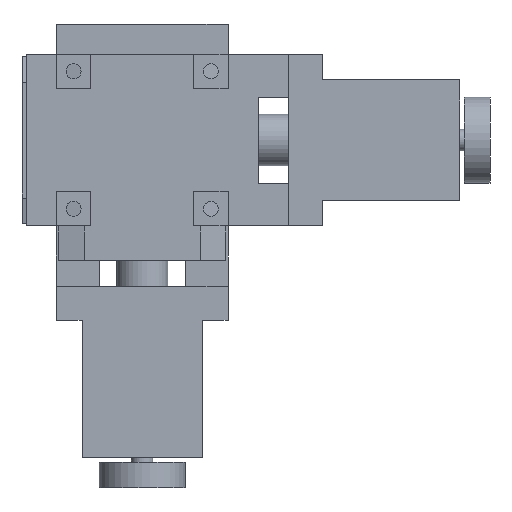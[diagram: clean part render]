
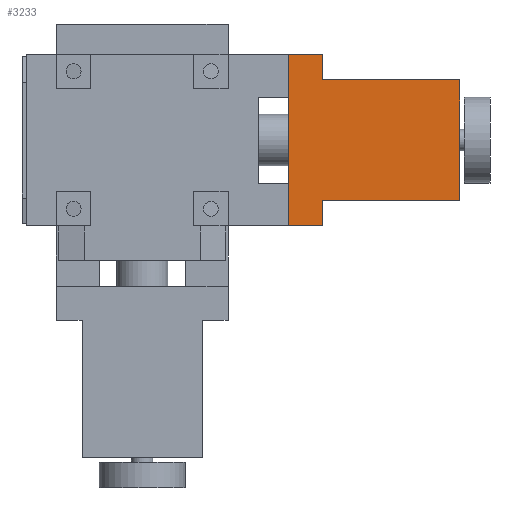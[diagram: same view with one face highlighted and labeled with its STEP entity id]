
A CAD part, front view. The second image highlights one B-rep face of the part: STEP entity #3233.
In plain terms, the highlighted planar face has unit normal (0, -1, 0) as drawn and (0, 0, -1) by its records, which use the part's own axes.
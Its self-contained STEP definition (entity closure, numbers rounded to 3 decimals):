
#88 = VERTEX_POINT ( 'NONE', #9815 ) ;
#397 = EDGE_CURVE ( 'NONE', #3888, #6703, #4702, .T. ) ;
#451 = LINE ( 'NONE', #5293, #3065 ) ;
#624 = ORIENTED_EDGE ( 'NONE', *, *, #4513, .F. ) ;
#758 = PLANE ( 'NONE',  #11463 ) ;
#817 = DIRECTION ( 'NONE',  ( -1., 0., 0. ) ) ;
#986 = EDGE_CURVE ( 'NONE', #3723, #7813, #10290, .T. ) ;
#1067 = EDGE_CURVE ( 'NONE', #7813, #6703, #1393, .T. ) ;
#1098 = DIRECTION ( 'NONE',  ( 0., 1., 0. ) ) ;
#1393 = LINE ( 'NONE', #9744, #9239 ) ;
#1728 = CARTESIAN_POINT ( 'NONE',  ( 34., 20., -14. ) ) ;
#1811 = CARTESIAN_POINT ( 'NONE',  ( 42., 14., -14. ) ) ;
#1897 = DIRECTION ( 'NONE',  ( 0., 0., -1. ) ) ;
#2073 = ORIENTED_EDGE ( 'NONE', *, *, #1067, .F. ) ;
#2337 = DIRECTION ( 'NONE',  ( -1., 0., 0. ) ) ;
#3065 = VECTOR ( 'NONE', #10885, 1000. ) ;
#3233 = ADVANCED_FACE ( 'NONE', ( #8497 ), #758, .T. ) ;
#3372 = VECTOR ( 'NONE', #10654, 1000. ) ;
#3723 = VERTEX_POINT ( 'NONE', #1811 ) ;
#3888 = VERTEX_POINT ( 'NONE', #11042 ) ;
#3989 = CARTESIAN_POINT ( 'NONE',  ( 42., -20., -14. ) ) ;
#4354 = LINE ( 'NONE', #7892, #12259 ) ;
#4513 = EDGE_CURVE ( 'NONE', #11700, #88, #4947, .T. ) ;
#4532 = CARTESIAN_POINT ( 'NONE',  ( 42., -20., -14. ) ) ;
#4595 = VECTOR ( 'NONE', #1098, 1000. ) ;
#4649 = ORIENTED_EDGE ( 'NONE', *, *, #4863, .T. ) ;
#4702 = LINE ( 'NONE', #10639, #13325 ) ;
#4863 = EDGE_CURVE ( 'NONE', #7366, #11959, #6346, .T. ) ;
#4947 = LINE ( 'NONE', #14519, #4595 ) ;
#5184 = EDGE_CURVE ( 'NONE', #11700, #3888, #4354, .T. ) ;
#5293 = CARTESIAN_POINT ( 'NONE',  ( 74., 14., -14. ) ) ;
#5733 = ORIENTED_EDGE ( 'NONE', *, *, #7365, .F. ) ;
#6346 = LINE ( 'NONE', #14012, #3372 ) ;
#6703 = VERTEX_POINT ( 'NONE', #1728 ) ;
#6886 = ORIENTED_EDGE ( 'NONE', *, *, #397, .T. ) ;
#7226 = CARTESIAN_POINT ( 'NONE',  ( 74., -14., -14. ) ) ;
#7335 = VECTOR ( 'NONE', #10674, 1000. ) ;
#7365 = EDGE_CURVE ( 'NONE', #7366, #3723, #451, .T. ) ;
#7366 = VERTEX_POINT ( 'NONE', #9754 ) ;
#7668 = EDGE_CURVE ( 'NONE', #11959, #88, #12882, .T. ) ;
#7813 = VERTEX_POINT ( 'NONE', #13926 ) ;
#7892 = CARTESIAN_POINT ( 'NONE',  ( 42., -20., -14. ) ) ;
#8019 = DIRECTION ( 'NONE',  ( -1., 0., 0. ) ) ;
#8497 = FACE_OUTER_BOUND ( 'NONE', #13515, .T. ) ;
#8567 = CARTESIAN_POINT ( 'NONE',  ( 74., 14., -14. ) ) ;
#9239 = VECTOR ( 'NONE', #817, 1000. ) ;
#9695 = DIRECTION ( 'NONE',  ( 0., -1., 0. ) ) ;
#9744 = CARTESIAN_POINT ( 'NONE',  ( 42., 20., -14. ) ) ;
#9754 = CARTESIAN_POINT ( 'NONE',  ( 74., 14., -14. ) ) ;
#9815 = CARTESIAN_POINT ( 'NONE',  ( 42., -14., -14. ) ) ;
#10290 = LINE ( 'NONE', #3989, #7335 ) ;
#10639 = CARTESIAN_POINT ( 'NONE',  ( 34., -20., -14. ) ) ;
#10654 = DIRECTION ( 'NONE',  ( 0., -1., 0. ) ) ;
#10674 = DIRECTION ( 'NONE',  ( 0., 1., 0. ) ) ;
#10885 = DIRECTION ( 'NONE',  ( -1., 0., 0. ) ) ;
#11042 = CARTESIAN_POINT ( 'NONE',  ( 34., -20., -14. ) ) ;
#11463 = AXIS2_PLACEMENT_3D ( 'NONE', #8567, #1897, #9695 ) ;
#11700 = VERTEX_POINT ( 'NONE', #4532 ) ;
#11794 = ORIENTED_EDGE ( 'NONE', *, *, #7668, .T. ) ;
#11959 = VERTEX_POINT ( 'NONE', #7226 ) ;
#12259 = VECTOR ( 'NONE', #2337, 1000. ) ;
#12507 = CARTESIAN_POINT ( 'NONE',  ( 74., -14., -14. ) ) ;
#12882 = LINE ( 'NONE', #12507, #14114 ) ;
#13325 = VECTOR ( 'NONE', #14093, 1000. ) ;
#13395 = ORIENTED_EDGE ( 'NONE', *, *, #5184, .T. ) ;
#13515 = EDGE_LOOP ( 'NONE', ( #11794, #624, #13395, #6886, #2073, #14491, #5733, #4649 ) ) ;
#13926 = CARTESIAN_POINT ( 'NONE',  ( 42., 20., -14. ) ) ;
#14012 = CARTESIAN_POINT ( 'NONE',  ( 74., 14., -14. ) ) ;
#14093 = DIRECTION ( 'NONE',  ( 0., 1., 0. ) ) ;
#14114 = VECTOR ( 'NONE', #8019, 1000. ) ;
#14491 = ORIENTED_EDGE ( 'NONE', *, *, #986, .F. ) ;
#14519 = CARTESIAN_POINT ( 'NONE',  ( 42., -20., -14. ) ) ;
